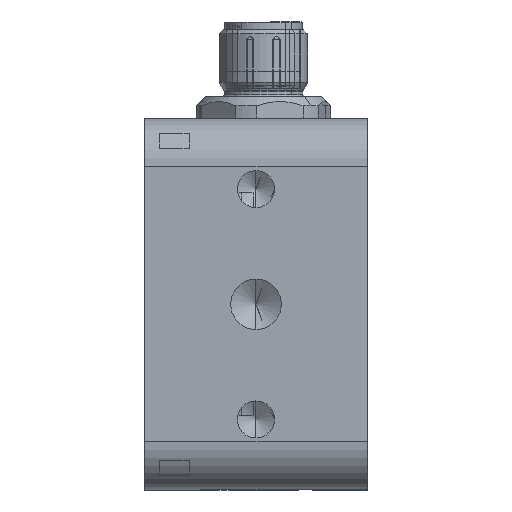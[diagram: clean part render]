
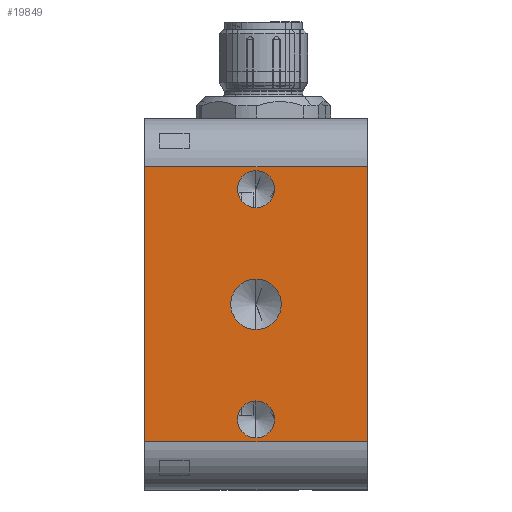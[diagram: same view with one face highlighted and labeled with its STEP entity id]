
A CAD part, left-side view. The second image highlights one B-rep face of the part: STEP entity #19849.
In plain terms, the highlighted planar face has unit normal (-1, 0, 0).
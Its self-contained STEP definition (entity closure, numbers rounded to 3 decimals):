
#1495 = VERTEX_POINT ( 'NONE', #51742 ) ;
#1775 = FACE_BOUND ( 'NONE', #46133, .T. ) ;
#2613 = CIRCLE ( 'NONE', #14383, 2.5 ) ;
#3959 = CARTESIAN_POINT ( 'NONE',  ( -925., 15., 13. ) ) ;
#4470 = DIRECTION ( 'NONE',  ( 0., 0., 1. ) ) ;
#5355 = DIRECTION ( 'NONE',  ( 0., 0., -1. ) ) ;
#6314 = CARTESIAN_POINT ( 'NONE',  ( -925., 0., -18.5 ) ) ;
#6657 = DIRECTION ( 'NONE',  ( 0., 0., 1. ) ) ;
#6885 = DIRECTION ( 'NONE',  ( -1., 0., 0. ) ) ;
#7116 = CARTESIAN_POINT ( 'NONE',  ( -925., 15., 0. ) ) ;
#7214 = DIRECTION ( 'NONE',  ( 0., -1., 0. ) ) ;
#7384 = CARTESIAN_POINT ( 'NONE',  ( -925., 30., 25. ) ) ;
#7822 = CIRCLE ( 'NONE', #36964, 2.5 ) ;
#8039 = LINE ( 'NONE', #7384, #47201 ) ;
#8567 = EDGE_CURVE ( 'NONE', #24420, #47619, #34277, .T. ) ;
#8942 = CARTESIAN_POINT ( 'NONE',  ( -925., 0., 18.5 ) ) ;
#10861 = ORIENTED_EDGE ( 'NONE', *, *, #36412, .T. ) ;
#11293 = DIRECTION ( 'NONE',  ( -1., 0., 0. ) ) ;
#11410 = DIRECTION ( 'NONE',  ( 1., 0., 0. ) ) ;
#11757 = ORIENTED_EDGE ( 'NONE', *, *, #63952, .F. ) ;
#12029 = ORIENTED_EDGE ( 'NONE', *, *, #34550, .T. ) ;
#12556 = AXIS2_PLACEMENT_3D ( 'NONE', #7116, #6885, #6657 ) ;
#12955 = ORIENTED_EDGE ( 'NONE', *, *, #62034, .F. ) ;
#13502 = VERTEX_POINT ( 'NONE', #14609 ) ;
#14383 = AXIS2_PLACEMENT_3D ( 'NONE', #15015, #20135, #19922 ) ;
#14609 = CARTESIAN_POINT ( 'NONE',  ( -925., 15., 18. ) ) ;
#15015 = CARTESIAN_POINT ( 'NONE',  ( -925., 15., 15.5 ) ) ;
#16424 = CARTESIAN_POINT ( 'NONE',  ( -925., 15., 15.5 ) ) ;
#16629 = AXIS2_PLACEMENT_3D ( 'NONE', #48077, #62851, #27236 ) ;
#16705 = DIRECTION ( 'NONE',  ( 0., 0., 1. ) ) ;
#17180 = DIRECTION ( 'NONE',  ( 0., 0., -1. ) ) ;
#17727 = CARTESIAN_POINT ( 'NONE',  ( -925., 0., -18.5 ) ) ;
#18423 = VECTOR ( 'NONE', #7214, 1000. ) ;
#19849 = ADVANCED_FACE ( 'NONE', ( #32132, #1775, #43342, #25728 ), #32367, .F. ) ;
#19922 = DIRECTION ( 'NONE',  ( 0., 0., 1. ) ) ;
#20135 = DIRECTION ( 'NONE',  ( -1., 0., 0. ) ) ;
#20666 = ORIENTED_EDGE ( 'NONE', *, *, #27398, .F. ) ;
#21481 = CARTESIAN_POINT ( 'NONE',  ( -925., 15., -18. ) ) ;
#24420 = VERTEX_POINT ( 'NONE', #8942 ) ;
#24984 = DIRECTION ( 'NONE',  ( -1., 0., 0. ) ) ;
#25175 = EDGE_CURVE ( 'NONE', #1495, #47619, #28804, .T. ) ;
#25728 = FACE_OUTER_BOUND ( 'NONE', #31722, .T. ) ;
#26514 = VERTEX_POINT ( 'NONE', #33018 ) ;
#27010 = CARTESIAN_POINT ( 'NONE',  ( -925., 0., 25. ) ) ;
#27236 = DIRECTION ( 'NONE',  ( 0., 0., 1. ) ) ;
#27398 = EDGE_CURVE ( 'NONE', #64931, #50053, #7822, .T. ) ;
#27886 = DIRECTION ( 'NONE',  ( 0., 0., -1. ) ) ;
#28264 = EDGE_CURVE ( 'NONE', #50053, #64931, #42890, .T. ) ;
#28515 = AXIS2_PLACEMENT_3D ( 'NONE', #27010, #11410, #17180 ) ;
#28734 = EDGE_CURVE ( 'NONE', #13502, #49352, #63640, .T. ) ;
#28804 = LINE ( 'NONE', #6314, #18423 ) ;
#31141 = VERTEX_POINT ( 'NONE', #34555 ) ;
#31722 = EDGE_LOOP ( 'NONE', ( #12029, #65408, #48567, #10861 ) ) ;
#32132 = FACE_BOUND ( 'NONE', #45559, .T. ) ;
#32367 = PLANE ( 'NONE',  #28515 ) ;
#33018 = CARTESIAN_POINT ( 'NONE',  ( -925., 30., 18.5 ) ) ;
#34277 = LINE ( 'NONE', #51377, #41496 ) ;
#34550 = EDGE_CURVE ( 'NONE', #26514, #1495, #8039, .T. ) ;
#34555 = CARTESIAN_POINT ( 'NONE',  ( -925., 15., -3.4 ) ) ;
#34685 = CARTESIAN_POINT ( 'NONE',  ( -925., 15., -13. ) ) ;
#35355 = EDGE_LOOP ( 'NONE', ( #64474, #11757 ) ) ;
#35715 = CIRCLE ( 'NONE', #12556, 3.4 ) ;
#36412 = EDGE_CURVE ( 'NONE', #24420, #26514, #51145, .T. ) ;
#36938 = DIRECTION ( 'NONE',  ( 0., 0., 1. ) ) ;
#36964 = AXIS2_PLACEMENT_3D ( 'NONE', #45339, #24984, #4470 ) ;
#37686 = CARTESIAN_POINT ( 'NONE',  ( -925., 15., -15.5 ) ) ;
#38862 = CARTESIAN_POINT ( 'NONE',  ( -925., 30., 18.5 ) ) ;
#41194 = ORIENTED_EDGE ( 'NONE', *, *, #28734, .F. ) ;
#41496 = VECTOR ( 'NONE', #5355, 1000. ) ;
#42890 = CIRCLE ( 'NONE', #60618, 2.5 ) ;
#43118 = VECTOR ( 'NONE', #44256, 1000. ) ;
#43342 = FACE_BOUND ( 'NONE', #35355, .T. ) ;
#44256 = DIRECTION ( 'NONE',  ( 0., 1., 0. ) ) ;
#45339 = CARTESIAN_POINT ( 'NONE',  ( -925., 15., -15.5 ) ) ;
#45559 = EDGE_LOOP ( 'NONE', ( #20666, #62582 ) ) ;
#46093 = CARTESIAN_POINT ( 'NONE',  ( -925., 15., 3.4 ) ) ;
#46133 = EDGE_LOOP ( 'NONE', ( #41194, #12955 ) ) ;
#46502 = AXIS2_PLACEMENT_3D ( 'NONE', #16424, #11293, #36938 ) ;
#47201 = VECTOR ( 'NONE', #27886, 1000. ) ;
#47557 = DIRECTION ( 'NONE',  ( -1., 0., 0. ) ) ;
#47619 = VERTEX_POINT ( 'NONE', #17727 ) ;
#48077 = CARTESIAN_POINT ( 'NONE',  ( -925., 15., 0. ) ) ;
#48567 = ORIENTED_EDGE ( 'NONE', *, *, #8567, .F. ) ;
#49352 = VERTEX_POINT ( 'NONE', #3959 ) ;
#50053 = VERTEX_POINT ( 'NONE', #21481 ) ;
#51145 = LINE ( 'NONE', #38862, #43118 ) ;
#51377 = CARTESIAN_POINT ( 'NONE',  ( -925., 0., 25. ) ) ;
#51742 = CARTESIAN_POINT ( 'NONE',  ( -925., 30., -18.5 ) ) ;
#52912 = VERTEX_POINT ( 'NONE', #46093 ) ;
#60618 = AXIS2_PLACEMENT_3D ( 'NONE', #37686, #47557, #16705 ) ;
#61625 = CIRCLE ( 'NONE', #16629, 3.4 ) ;
#62034 = EDGE_CURVE ( 'NONE', #49352, #13502, #2613, .T. ) ;
#62582 = ORIENTED_EDGE ( 'NONE', *, *, #28264, .F. ) ;
#62851 = DIRECTION ( 'NONE',  ( -1., 0., 0. ) ) ;
#63640 = CIRCLE ( 'NONE', #46502, 2.5 ) ;
#63952 = EDGE_CURVE ( 'NONE', #31141, #52912, #61625, .T. ) ;
#64474 = ORIENTED_EDGE ( 'NONE', *, *, #65999, .F. ) ;
#64931 = VERTEX_POINT ( 'NONE', #34685 ) ;
#65408 = ORIENTED_EDGE ( 'NONE', *, *, #25175, .T. ) ;
#65999 = EDGE_CURVE ( 'NONE', #52912, #31141, #35715, .T. ) ;
